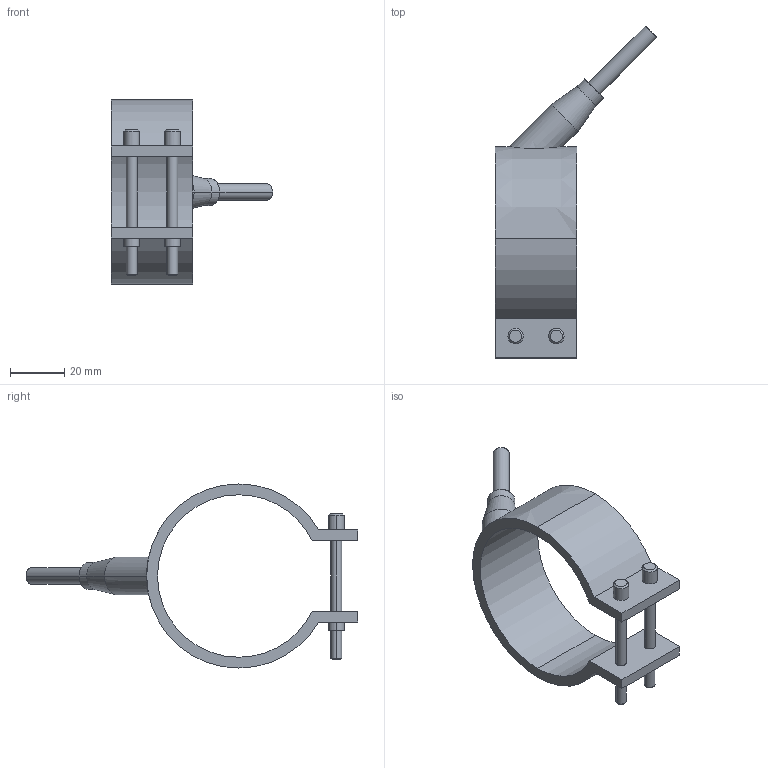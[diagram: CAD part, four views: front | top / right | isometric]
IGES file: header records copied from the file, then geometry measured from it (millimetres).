
Start section: START RECORD GO HERE.
Global section: file name: 29060030.igs; native system: DASSAULT SYSTEMES CATIA V5 R20 - www.3ds.com; preprocessor: CATIA Version 5 Release 20 ; author: Utente; organization: NB04-ASUS; date: 20210327.105511; units: millimetre
Bounding box: 59.55 x 122.55 x 68 mm (x, y, z)
Surface area: 16770.9 mm2 (no closed solid volume)
Topology: 0 solids, 0 shells, 54 faces, 252 edges, 252 vertices
Faces by surface type: revolution 38, plane 16
